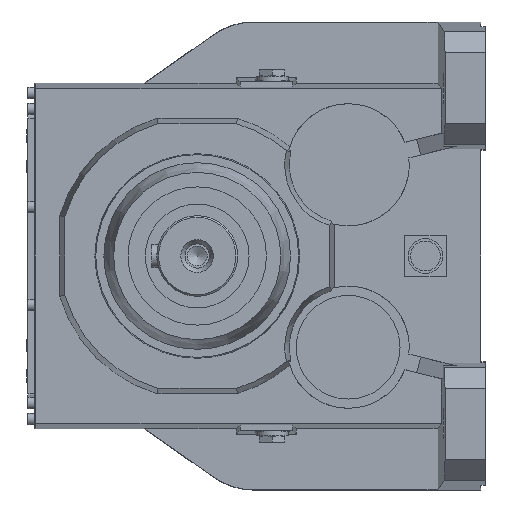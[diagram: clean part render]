
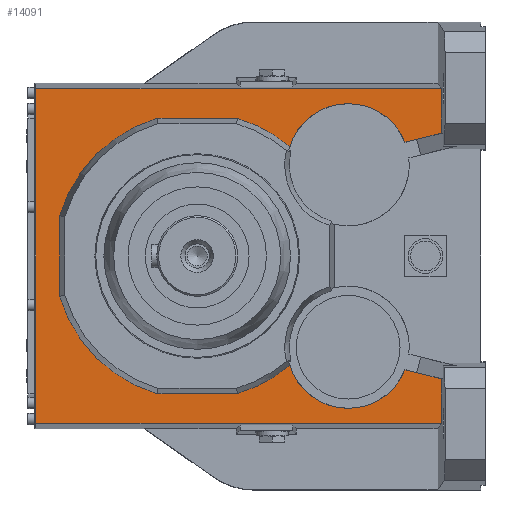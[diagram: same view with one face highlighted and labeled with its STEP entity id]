
A CAD part, left-side view. The second image highlights one B-rep face of the part: STEP entity #14091.
In plain terms, the highlighted planar face has unit normal (-1, 0, 0) as drawn and (1, 0, 0) by its records, which use the part's own axes.
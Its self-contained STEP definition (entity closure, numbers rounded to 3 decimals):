
#194=LINE('',#18750,#1219);
#202=LINE('',#18776,#1227);
#203=LINE('',#18782,#1228);
#204=LINE('',#18786,#1229);
#205=LINE('',#18790,#1230);
#206=LINE('',#18793,#1231);
#207=LINE('',#18795,#1232);
#208=LINE('',#18797,#1233);
#209=LINE('',#18799,#1234);
#210=LINE('',#18801,#1235);
#1219=VECTOR('',#15729,1000.);
#1227=VECTOR('',#15745,1000.);
#1228=VECTOR('',#15750,1000.);
#1229=VECTOR('',#15753,1000.);
#1230=VECTOR('',#15756,1000.);
#1231=VECTOR('',#15759,1000.);
#1232=VECTOR('',#15760,1000.);
#1233=VECTOR('',#15761,1000.);
#1234=VECTOR('',#15762,1000.);
#1235=VECTOR('',#15763,1000.);
#2225=PLANE('',#14732);
#2672=CIRCLE('',#14730,53.);
#2674=CIRCLE('',#14733,53.);
#2675=CIRCLE('',#14734,124.29);
#2676=CIRCLE('',#14735,124.29);
#2677=CIRCLE('',#14736,124.29);
#2678=CIRCLE('',#14737,124.29);
#3058=ORIENTED_EDGE('',*,*,#5960,.T.);
#3059=ORIENTED_EDGE('',*,*,#5971,.F.);
#3060=ORIENTED_EDGE('',*,*,#5972,.F.);
#3061=ORIENTED_EDGE('',*,*,#5973,.F.);
#3062=ORIENTED_EDGE('',*,*,#5974,.F.);
#3063=ORIENTED_EDGE('',*,*,#5975,.F.);
#3064=ORIENTED_EDGE('',*,*,#5976,.T.);
#3065=ORIENTED_EDGE('',*,*,#5977,.F.);
#3066=ORIENTED_EDGE('',*,*,#5978,.T.);
#3067=ORIENTED_EDGE('',*,*,#5979,.F.);
#3068=ORIENTED_EDGE('',*,*,#5968,.T.);
#3069=ORIENTED_EDGE('',*,*,#5980,.T.);
#3070=ORIENTED_EDGE('',*,*,#5981,.T.);
#3071=ORIENTED_EDGE('',*,*,#5982,.T.);
#3072=ORIENTED_EDGE('',*,*,#5983,.F.);
#3073=ORIENTED_EDGE('',*,*,#5984,.F.);
#5960=EDGE_CURVE('',#7406,#7405,#194,.T.);
#5968=EDGE_CURVE('',#7414,#7412,#2672,.F.);
#5971=EDGE_CURVE('',#7416,#7405,#202,.T.);
#5972=EDGE_CURVE('',#7417,#7416,#2674,.T.);
#5973=EDGE_CURVE('',#7418,#7417,#2675,.T.);
#5974=EDGE_CURVE('',#7419,#7418,#203,.T.);
#5975=EDGE_CURVE('',#7420,#7419,#2676,.T.);
#5976=EDGE_CURVE('',#7420,#7421,#204,.T.);
#5977=EDGE_CURVE('',#7422,#7421,#2677,.T.);
#5978=EDGE_CURVE('',#7422,#7423,#205,.T.);
#5979=EDGE_CURVE('',#7414,#7423,#2678,.T.);
#5980=EDGE_CURVE('',#7412,#7424,#206,.T.);
#5981=EDGE_CURVE('',#7424,#7425,#207,.T.);
#5982=EDGE_CURVE('',#7425,#7426,#208,.T.);
#5983=EDGE_CURVE('',#7427,#7426,#209,.T.);
#5984=EDGE_CURVE('',#7406,#7427,#210,.T.);
#7405=VERTEX_POINT('',#18749);
#7406=VERTEX_POINT('',#18751);
#7412=VERTEX_POINT('',#18765);
#7414=VERTEX_POINT('',#18768);
#7416=VERTEX_POINT('',#18777);
#7417=VERTEX_POINT('',#18779);
#7418=VERTEX_POINT('',#18781);
#7419=VERTEX_POINT('',#18783);
#7420=VERTEX_POINT('',#18785);
#7421=VERTEX_POINT('',#18787);
#7422=VERTEX_POINT('',#18789);
#7423=VERTEX_POINT('',#18791);
#7424=VERTEX_POINT('',#18794);
#7425=VERTEX_POINT('',#18796);
#7426=VERTEX_POINT('',#18798);
#7427=VERTEX_POINT('',#18800);
#8471=EDGE_LOOP('',(#3058,#3059,#3060,#3061,#3062,#3063,#3064,#3065,#3066,
#3067,#3068,#3069,#3070,#3071,#3072,#3073));
#9221=FACE_BOUND('',#8471,.T.);
#14091=ADVANCED_FACE('',(#9221),#2225,.F.);
#14730=AXIS2_PLACEMENT_3D('',#18767,#15739,#15740);
#14732=AXIS2_PLACEMENT_3D('',#18775,#15743,#15744);
#14733=AXIS2_PLACEMENT_3D('',#18778,#15746,#15747);
#14734=AXIS2_PLACEMENT_3D('',#18780,#15748,#15749);
#14735=AXIS2_PLACEMENT_3D('',#18784,#15751,#15752);
#14736=AXIS2_PLACEMENT_3D('',#18788,#15754,#15755);
#14737=AXIS2_PLACEMENT_3D('',#18792,#15757,#15758);
#15729=DIRECTION('',(0.,0.,-1.));
#15739=DIRECTION('',(1.,0.,0.));
#15740=DIRECTION('',(0.,0.,-1.));
#15743=DIRECTION('',(-1.,0.,0.));
#15744=DIRECTION('',(0.,0.,1.));
#15745=DIRECTION('',(0.,-0.97,0.242));
#15746=DIRECTION('',(1.,0.,0.));
#15747=DIRECTION('',(0.,0.,-1.));
#15748=DIRECTION('',(1.,0.,0.));
#15749=DIRECTION('',(0.,0.,-1.));
#15750=DIRECTION('',(0.,-1.,0.));
#15751=DIRECTION('',(1.,0.,0.));
#15752=DIRECTION('',(0.,0.,-1.));
#15753=DIRECTION('',(0.,0.,-1.));
#15754=DIRECTION('',(1.,0.,0.));
#15755=DIRECTION('',(0.,0.,-1.));
#15756=DIRECTION('',(0.,-1.,0.));
#15757=DIRECTION('',(1.,0.,0.));
#15758=DIRECTION('',(0.,0.,-1.));
#15759=DIRECTION('',(0.,-0.97,-0.242));
#15760=DIRECTION('',(0.,0.,-1.));
#15761=DIRECTION('',(0.,1.,0.));
#15762=DIRECTION('',(0.,0.,-1.));
#15763=DIRECTION('',(0.,1.,0.));
#18749=CARTESIAN_POINT('',(278.,-211.91,106.53));
#18750=CARTESIAN_POINT('',(278.,-211.91,250.));
#18751=CARTESIAN_POINT('',(278.,-211.91,145.231));
#18765=CARTESIAN_POINT('',(278.,-180.232,-98.632));
#18767=CARTESIAN_POINT('',(278.,-130.95,-79.13));
#18768=CARTESIAN_POINT('',(278.,-80.332,-94.841));
#18775=CARTESIAN_POINT('',(278.,-200.,93.002));
#18776=CARTESIAN_POINT('',(278.,-175.866,97.543));
#18777=CARTESIAN_POINT('',(278.,-180.232,98.632));
#18778=CARTESIAN_POINT('',(278.,-130.95,79.13));
#18779=CARTESIAN_POINT('',(278.,-80.332,94.841));
#18780=CARTESIAN_POINT('',(278.,0.,0.));
#18781=CARTESIAN_POINT('',(278.,-34.909,119.287));
#18782=CARTESIAN_POINT('',(278.,100.,119.287));
#18783=CARTESIAN_POINT('',(278.,34.909,119.287));
#18784=CARTESIAN_POINT('',(278.,0.,0.));
#18785=CARTESIAN_POINT('',(278.,119.287,34.909));
#18786=CARTESIAN_POINT('',(278.,119.287,100.));
#18787=CARTESIAN_POINT('',(278.,119.287,-34.909));
#18788=CARTESIAN_POINT('',(278.,0.,0.));
#18789=CARTESIAN_POINT('',(278.,34.909,-119.287));
#18790=CARTESIAN_POINT('',(278.,100.,-119.287));
#18791=CARTESIAN_POINT('',(278.,-34.909,-119.287));
#18792=CARTESIAN_POINT('',(278.,0.,0.));
#18793=CARTESIAN_POINT('',(278.,-175.866,-97.543));
#18794=CARTESIAN_POINT('',(278.,-211.91,-106.53));
#18795=CARTESIAN_POINT('',(278.,-211.91,250.));
#18796=CARTESIAN_POINT('',(278.,-211.91,-145.231));
#18797=CARTESIAN_POINT('',(278.,-230.,-145.231));
#18798=CARTESIAN_POINT('',(278.,140.,-145.231));
#18799=CARTESIAN_POINT('',(278.,140.,145.231));
#18800=CARTESIAN_POINT('',(278.,140.,145.231));
#18801=CARTESIAN_POINT('',(278.,-230.,145.231));
